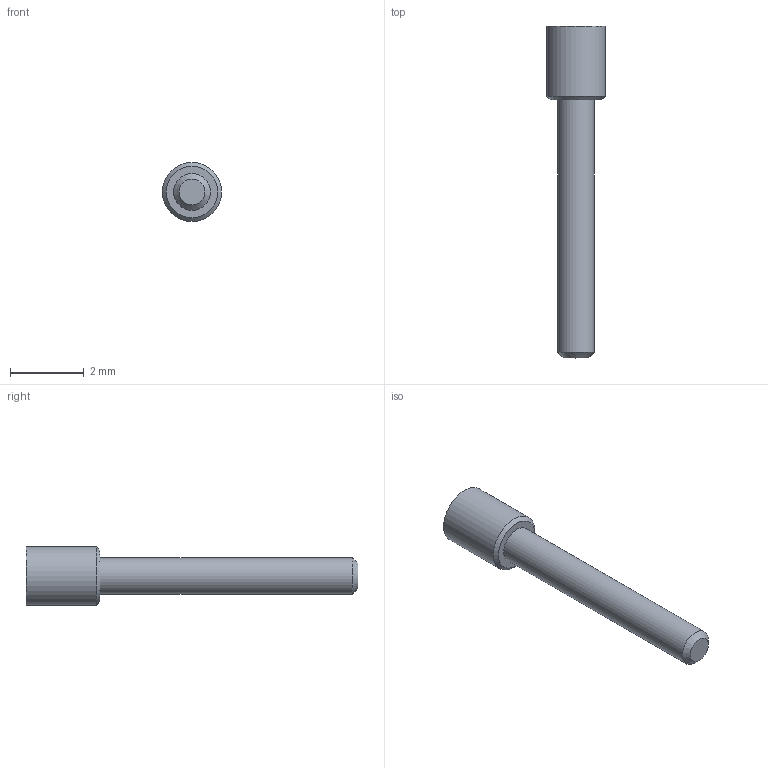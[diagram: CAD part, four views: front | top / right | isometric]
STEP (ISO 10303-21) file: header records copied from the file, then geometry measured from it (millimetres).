
FILE_DESCRIPTION (( 'STEP AP214' ), '1' );
FILE_NAME ('SE-3.STEP', '2018-10-09T18:07:01', ( '' ), ( '' ), 'SwSTEP 2.0', 'SolidWorks 2017', '' );
FILE_SCHEMA (( 'AUTOMOTIVE_DESIGN' ));
Length unit declared in the file: millimetre
Products named in the file (1): SE-3
Bounding box: 1.6 x 9 x 1.6 mm (x, y, z)
Volume: 9.4 mm3; surface area: 36.2 mm2
Topology: 1 solids, 1 shells, 20 faces, 48 edges, 32 vertices
Faces by surface type: plane 11, cylinder 7, cone 2
Full cylindrical faces by diameter (mm): 1 x1, 1.6 x1
Entity records: 574 total; most frequent: CARTESIAN_POINT 123, ORIENTED_EDGE 84, DIRECTION 80, EDGE_CURVE 42, VERTEX_POINT 30, AXIS2_PLACEMENT_3D 27, VECTOR 26, LINE 26
